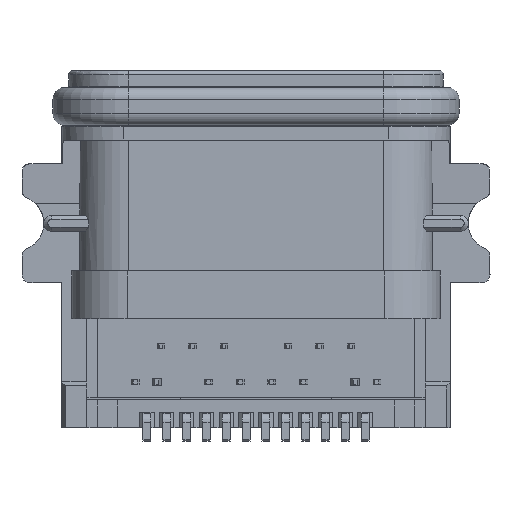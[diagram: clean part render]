
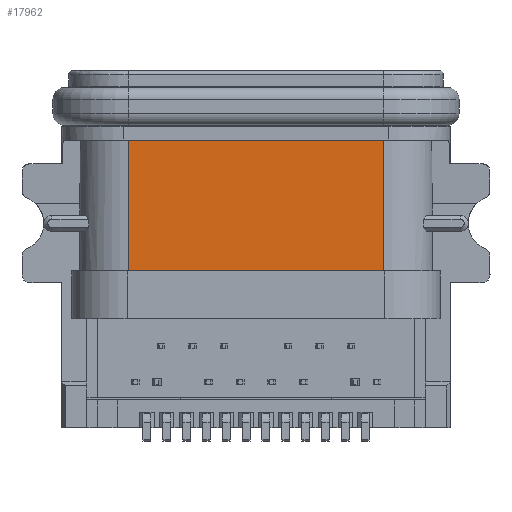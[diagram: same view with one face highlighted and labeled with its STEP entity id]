
A CAD part, front view. The second image highlights one B-rep face of the part: STEP entity #17962.
In plain terms, the highlighted planar face has unit normal (0, -1, 0).
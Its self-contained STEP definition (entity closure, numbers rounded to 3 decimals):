
#528 = CARTESIAN_POINT ( 'NONE',  ( -31.258, 2.457, 3.345 ) ) ;
#1467 = EDGE_LOOP ( 'NONE', ( #37157, #7772, #41704, #49696 ) ) ;
#3909 = EDGE_CURVE ( 'NONE', #33537, #8774, #40141, .T. ) ;
#7772 = ORIENTED_EDGE ( 'NONE', *, *, #9490, .T. ) ;
#8774 = VERTEX_POINT ( 'NONE', #41125 ) ;
#9490 = EDGE_CURVE ( 'NONE', #8774, #31268, #40985, .T. ) ;
#9864 = PLANE ( 'NONE',  #29597 ) ;
#10480 = EDGE_CURVE ( 'NONE', #31268, #25051, #40154, .T. ) ;
#10746 = CARTESIAN_POINT ( 'NONE',  ( -37.698, 2.457, 0.045 ) ) ;
#11263 = CARTESIAN_POINT ( 'NONE',  ( -37.698, 2.457, 3.345 ) ) ;
#17137 = CARTESIAN_POINT ( 'NONE',  ( -31.258, 2.457, 3.345 ) ) ;
#17458 = VECTOR ( 'NONE', #35882, 1000. ) ;
#17562 = CARTESIAN_POINT ( 'NONE',  ( -31.258, 2.457, 3.345 ) ) ;
#17962 = ADVANCED_FACE ( 'NONE', ( #23192 ), #9864, .F. ) ;
#18829 = CARTESIAN_POINT ( 'NONE',  ( -31.258, 2.457, 0.045 ) ) ;
#20316 = EDGE_CURVE ( 'NONE', #33537, #25051, #51100, .T. ) ;
#23192 = FACE_OUTER_BOUND ( 'NONE', #1467, .T. ) ;
#25051 = VERTEX_POINT ( 'NONE', #18829 ) ;
#29597 = AXIS2_PLACEMENT_3D ( 'NONE', #40454, #48933, #54007 ) ;
#29752 = VECTOR ( 'NONE', #47421, 1000. ) ;
#31268 = VERTEX_POINT ( 'NONE', #10746 ) ;
#31967 = VECTOR ( 'NONE', #53422, 1000. ) ;
#32784 = DIRECTION ( 'NONE',  ( 0., 0., -1. ) ) ;
#33537 = VERTEX_POINT ( 'NONE', #17562 ) ;
#35882 = DIRECTION ( 'NONE',  ( -1., 0., 0. ) ) ;
#36063 = VECTOR ( 'NONE', #32784, 1000. ) ;
#37157 = ORIENTED_EDGE ( 'NONE', *, *, #3909, .T. ) ;
#40141 = LINE ( 'NONE', #528, #17458 ) ;
#40154 = LINE ( 'NONE', #40994, #31967 ) ;
#40454 = CARTESIAN_POINT ( 'NONE',  ( -37.826, 2.457, -1.735 ) ) ;
#40985 = LINE ( 'NONE', #11263, #36063 ) ;
#40994 = CARTESIAN_POINT ( 'NONE',  ( -37.826, 2.457, 0.045 ) ) ;
#41125 = CARTESIAN_POINT ( 'NONE',  ( -37.698, 2.457, 3.345 ) ) ;
#41704 = ORIENTED_EDGE ( 'NONE', *, *, #10480, .T. ) ;
#47421 = DIRECTION ( 'NONE',  ( 0., 0., -1. ) ) ;
#48933 = DIRECTION ( 'NONE',  ( 0., 1., 0. ) ) ;
#49696 = ORIENTED_EDGE ( 'NONE', *, *, #20316, .F. ) ;
#51100 = LINE ( 'NONE', #17137, #29752 ) ;
#53422 = DIRECTION ( 'NONE',  ( 1., 0., 0. ) ) ;
#54007 = DIRECTION ( 'NONE',  ( 1., 0., 0. ) ) ;
